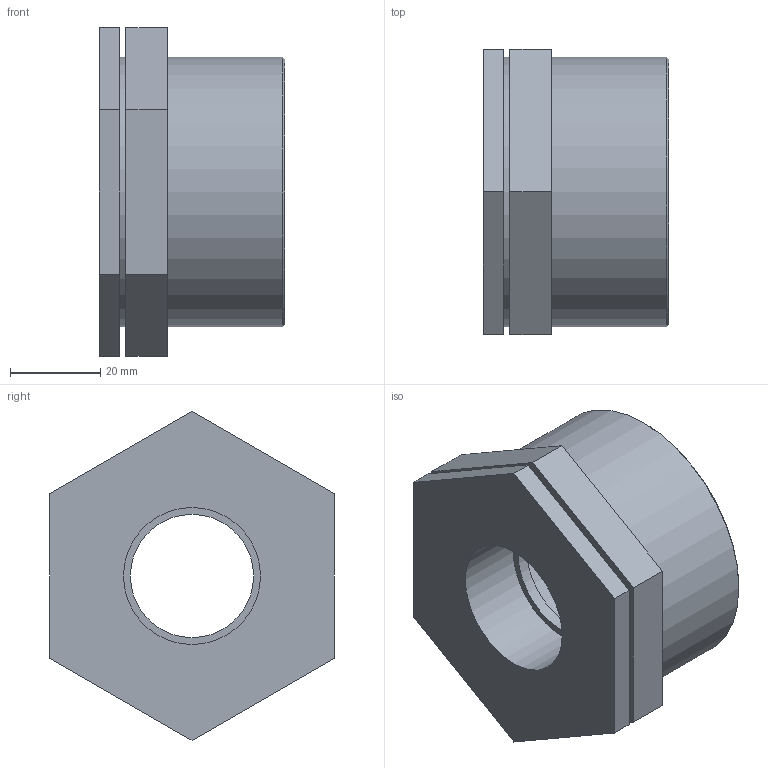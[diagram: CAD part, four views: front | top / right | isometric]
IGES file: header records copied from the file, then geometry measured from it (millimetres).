
Global section: file name: 050207020010_0502070200100A.ipt; native system: Autodesk Inventor 2015; preprocessor: unknown; author: KIM; date: 20170618.093139; units: millimetre
Bounding box: 41 x 63 x 72.75 mm (x, y, z)
Volume: 53310.7 mm3; surface area: 21526 mm2
Topology: 1 solids, 1 shells, 28 faces, 66 edges, 46 vertices
Faces by surface type: plane 20, revolution 4, cylinder 3, cone 1
Full cylindrical faces by diameter (mm): 36.349 x1, 59.614 x2
